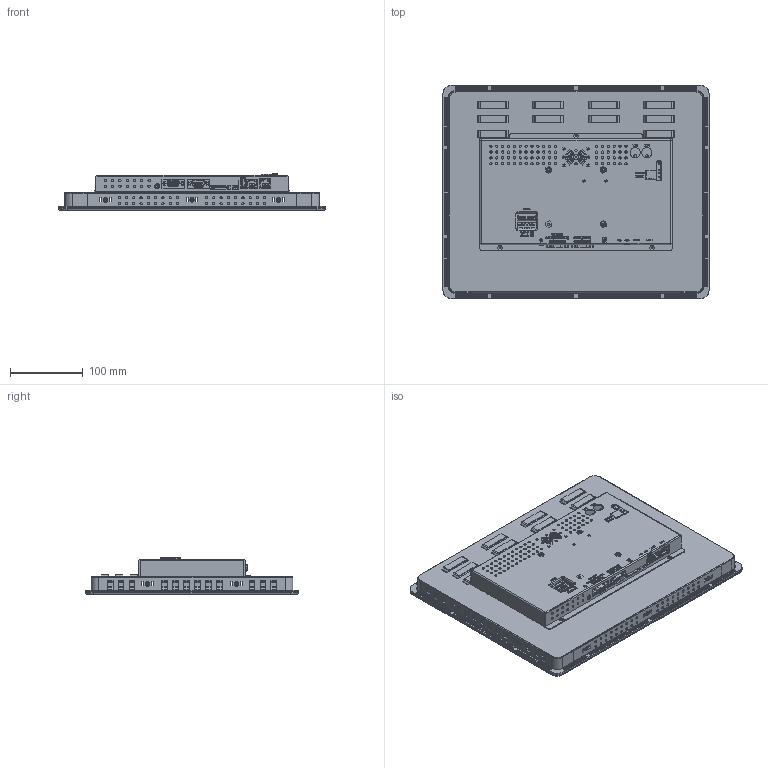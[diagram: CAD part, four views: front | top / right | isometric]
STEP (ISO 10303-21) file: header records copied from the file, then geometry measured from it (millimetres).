
FILE_DESCRIPTION (( 'STEP AP203' ), '1' );
FILE_NAME ('cMT3151_150702.STEP', '2017-07-28T08:02:39', ( 'annayang' ), ( '' ), 'SwSTEP 2.0', 'SolidWorks 2011', '' );
FILE_SCHEMA (( 'CONFIG_CONTROL_DESIGN' ));
Products named in the file (1): cMT3151_150702
Bounding box: 366 x 293 x 51.11 mm (x, y, z)
Surface area: 529311.2 mm2 (no closed solid volume)
Topology: 0 solids, 81 shells, 1554 faces, 7180 edges, 5722 vertices
Faces by surface type: plane 780, cylinder 654, cone 70, bspline 24, sphere 16, torus 10
Entity records: 85924 total; most frequent: CARTESIAN_POINT 27840, DIRECTION 11330, ORIENTED_EDGE 11217, EDGE_CURVE 7164, VERTEX_POINT 5714, LINE 4476, VECTOR 4476, AXIS2_PLACEMENT_3D 3427
